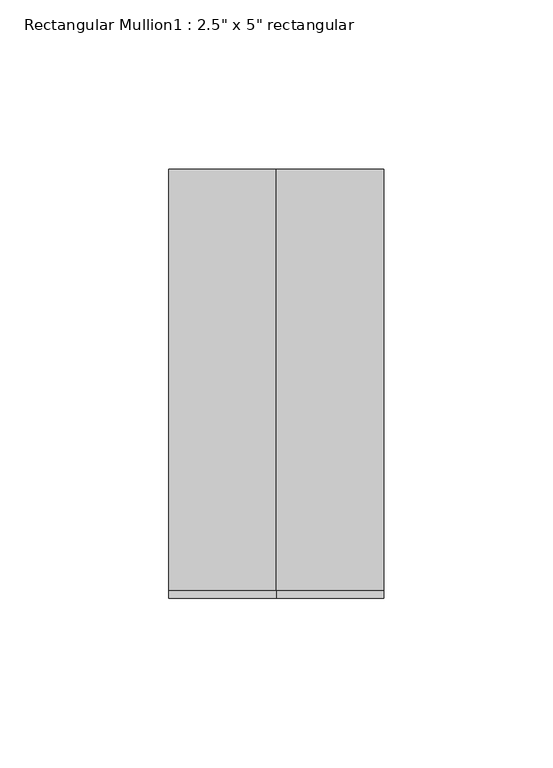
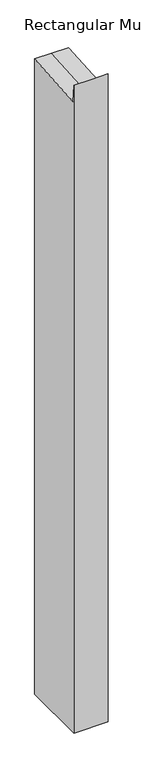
"""IFC4 building model written with IfcOpenShell, lengths in millimetres: member geometry."""

from ifc_helpers import new_model, si_unit, origin, place, context, project, spatial, faceted_brep, source, transform, mapped, element, save


def member_92e61aeb(model_context):
    return source(origin(), model_context, "Body", "Brep", [
        faceted_brep([(31.75, 63.5, -1249.2609667), (31.75, -63.5, -1249.2609667), (-31.75, -63.5, -1249.2609667), (-31.75, 63.5, -1249.2609667), (-31.75, 63.5, 4.3258089), (0.0, 63.5, 4.3258089), (31.75, 63.5, 4.3258089), (-31.75, -63.5, 29.5516342), (-31.75, -61.1522336, -4.315452), (31.75, -63.5, 29.5516342), (0.0, -63.5, 29.5516342), (31.75, -61.1522336, -4.315452), (0.0, -61.1522336, -4.315452)], [[[0, 1, 2, 3]], [[4, 5, 6, 0, 3]], [[7, 8, 4, 3, 2]], [[9, 10, 7, 2, 1]], [[6, 11, 9, 1, 0]], [[6, 5, 12, 11]], [[5, 4, 8, 12]], [[8, 7, 10, 12]], [[10, 9, 11, 12]]]),
    ])


if __name__ == "__main__":
    model = new_model("IFC4")
    model_context = context("Model", 3, world=origin())
    ifc_project = project(units=[si_unit("LENGTHUNIT", "METRE", prefix="MILLI")], contexts=[model_context])
    site = spatial("IfcSite", under=ifc_project)
    building = spatial("IfcBuilding", under=site)
    placement = place(None, origin())
    member_shape = member_92e61aeb(model_context)
    element("IfcMember", 1, ObjectType="Rectangular Mullion1 : 2.5\" x 5\" rectangular", at=placement, inside=building, context=model_context, shape_type="MappedRepresentation", body=[
        mapped(member_shape, transform((0.0, 0.0, 0.0), x_axis=(1.0, 0.0, 0.0), y_axis=(0.0, 1.0, 0.0), z_axis=(0.0, 0.0, 1.0))),
    ])
    save(model, "model.ifc")
